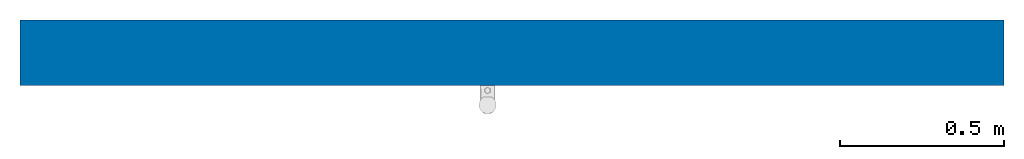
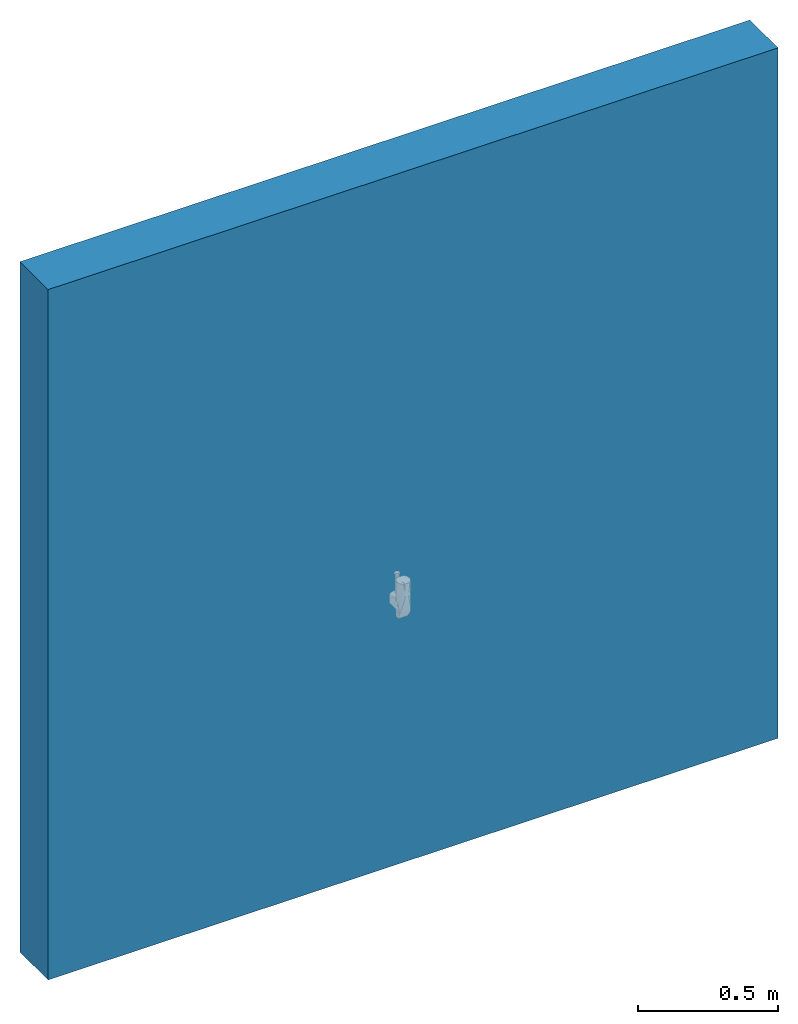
# One storey, part 1 of 2: 1 wall.
"""IFC2X3 building model written with IfcOpenShell, lengths in millimetres."""

from ifc_helpers import new_model, entity, si_unit, converted_unit, frame, frame_2d, origin, place, context, project, spatial, rectangle, extrude, material, layer, layer_set, layer_usage, element, save


model = new_model("IFC2X3")

# Units and contexts
model_context = context("Model", 3, precision=1e-06, world=origin())
plan_context = context("Plan", 3, precision=1e-06, world=origin())
ifc_project = project(units=[si_unit("LENGTHUNIT", "METRE", prefix="MILLI"), si_unit("AREAUNIT", "SQUARE_METRE", prefix="MILLI"), si_unit("VOLUMEUNIT", "CUBIC_METRE", prefix="MILLI"), converted_unit("PLANEANGLEUNIT", "DEGREE", entity("IfcRatioMeasure", 0.01745329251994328), si_unit("PLANEANGLEUNIT", "RADIAN"), dimensions=[0, 0, 0, 0, 0, 0, 0]), si_unit("TIMEUNIT", "SECOND")], contexts=[model_context, plan_context])

# Site, building, storey
site_placement = place(None, origin())
site = spatial("IfcSite", under=ifc_project, at=site_placement, Name="Default", CompositionType="ELEMENT")
building_placement = place(site_placement, origin())
building = spatial("IfcBuilding", under=site, at=building_placement, CompositionType="ELEMENT")
storey_placement = place(building_placement, origin())
storey = spatial("IfcBuildingStorey", under=building, at=storey_placement, Name="Level 1", CompositionType="ELEMENT", Elevation=0.0)

# Wall
ifc_material = material(Name="Default Wall")
ifc_layer = layer(ifc_material, 200.0)
ifc_layer_set = layer_set([ifc_layer], Name="Basic Wall:Generic - 200mm")
ifc_layer_usage = layer_usage(ifc_layer_set, "AXIS2", "NEGATIVE", 100.0)
wall_placement = place(storey_placement, frame((-1509.016489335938, -858.2318181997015, 0.0)))
element("IfcWallStandardCase", 1, at=wall_placement, inside=storey, material=ifc_layer_usage, Name="Basic Wall:Generic - 200mm", ObjectType="Basic Wall:Generic - 200mm:398", context=model_context, shape_type="SweptSolid", body=[
    extrude(rectangle(XDim=3000.0, YDim=200.0, at=frame_2d((1500.0, 0.0), x_axis=(-1.0, 0.0))), origin(), (0.0, 0.0, 1.0), 3000.0),
])

save(model, "model.ifc")
